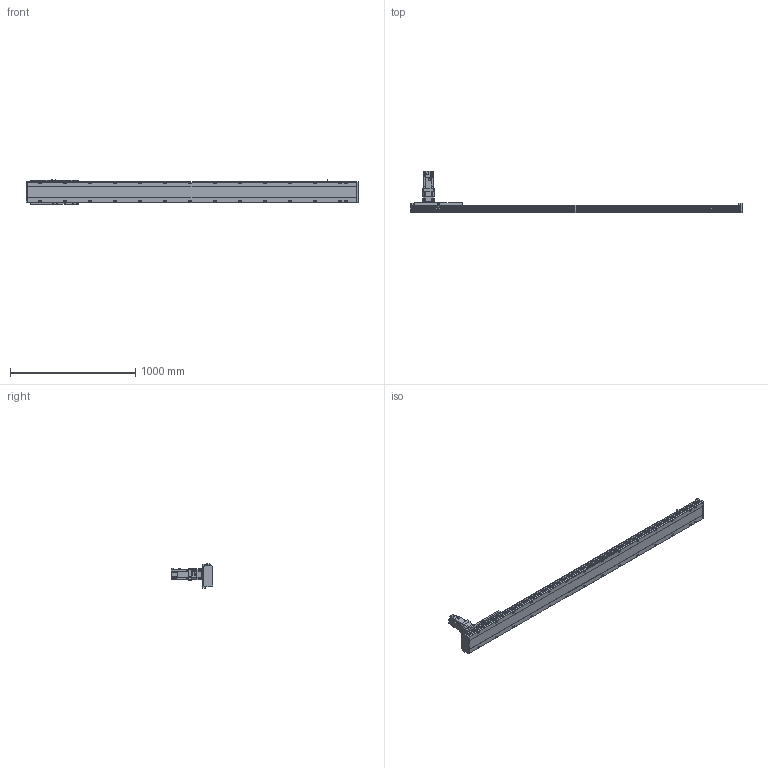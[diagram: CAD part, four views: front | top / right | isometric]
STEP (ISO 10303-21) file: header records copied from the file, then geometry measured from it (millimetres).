
FILE_DESCRIPTION(/* description */ ('STEP AP203'),/* implementation_level */ '2;1');
FILE_NAME(/* name */ 'SHS17A-L13-S2200-BC-T75-C1-N(0)',/* time_stamp */ '2023-03-27T08:58:03+02:00',/* author */ ('License CC BY-ND 4.0'),/* organization */ ('CADENAS'),/* preprocessor_version */ 'ST-DEVELOPER v19.3',/* originating_system */ 'PARTsolutions',/* authorisation */ ' ');
FILE_SCHEMA (('CONFIG_CONTROL_DESIGN'));
Length unit declared in the file: millimetre
Products named in the file (7): SHS17A-L13-S2200-BC-T75-C1-N(0); PSC140-sensor; SHS17A-S2200(0)_body2; T75-p1; SHS17A-S2200_body3; SHS17A-S2200-C1(0)_slider; SHS17A-S2200-C1(0)_body
Assembly tree (13 placements, depth 2):
  SHS17A-L13-S2200-BC-T75-C1-N(0)
    PSC140-sensor  x3
    SHS17A-S2200(0)_body2  x6
    T75-p1
    SHS17A-S2200_body3
    SHS17A-S2200-C1(0)_slider
    SHS17A-S2200-C1(0)_body
Bounding box: 2654 x 333.8 x 193.4 mm (x, y, z)
Volume: 19297801.8 mm3; surface area: 2254848.1 mm2
Topology: 13 solids, 13 shells, 2104 faces, 5341 edges, 3480 vertices
Faces by surface type: plane 1351, cylinder 668, cone 82, torus 3
Full cylindrical faces by diameter (mm): 2.8 x3, 4.134 x24, 4.5 x2, 4.6 x3, 4.917 x15, 5.5 x48, 6 x7, 6.5 x24, 6.647 x36, 6.8 x9, 8 x3, 8.5 x28, 10 x28, 11 x4, 14 x28, 22 x1, 24 x1, 24.2 x1, 28 x1, 28.2 x1, 28.8 x1, 29.8 x1, 48.542 x1, 68 x1, 70 x1, 78 x1, 80 x2
Entity records: 39808 total; most frequent: CARTESIAN_POINT 7708, DIRECTION 6523, ORIENTED_EDGE 6268, EDGE_CURVE 3134, AXIS2_PLACEMENT_3D 2294, VERTEX_POINT 2203, LINE 1935, VECTOR 1935
